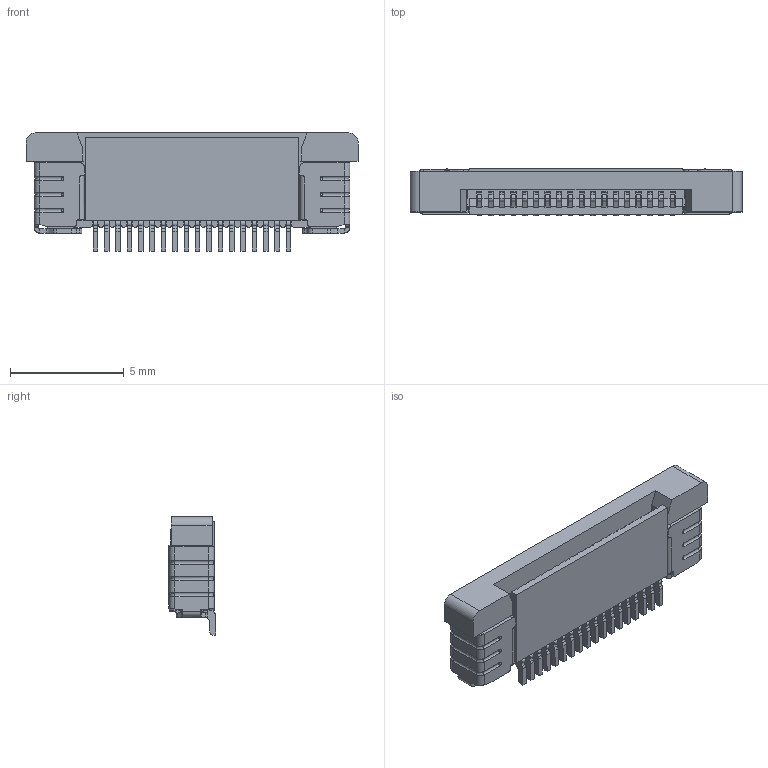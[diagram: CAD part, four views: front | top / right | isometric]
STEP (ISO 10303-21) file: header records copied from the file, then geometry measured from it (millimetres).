
FILE_DESCRIPTION (( 'STEP AP203' ), '1' );
FILE_NAME ('GT-F0504SR20-XXSMT02.STEP', '2023-12-27T07:48:54', ( 'Microsoft' ), ( 'Microsoft' ), 'SwSTEP 2.0', 'SolidWorks 2023', '' );
FILE_SCHEMA (( 'CONFIG_CONTROL_DESIGN' ));
Products named in the file (1): GT-F0504SR20-XXSMT02
Bounding box: 14.6 x 2.07 x 5.2 mm (x, y, z)
Surface area: 671.6 mm2 (no closed solid volume)
Topology: 0 solids, 150 shells, 2395 faces, 7585 edges, 5246 vertices
Faces by surface type: plane 1357, cylinder 848, bspline 190
Entity records: 97514 total; most frequent: CARTESIAN_POINT 42069, ORIENTED_EDGE 13906, EDGE_CURVE 7585, DIRECTION 6823, B_SPLINE_CURVE_WITH_KNOTS 5331, VERTEX_POINT 5246, EDGE_LOOP 2423, FACE_OUTER_BOUND 2395
